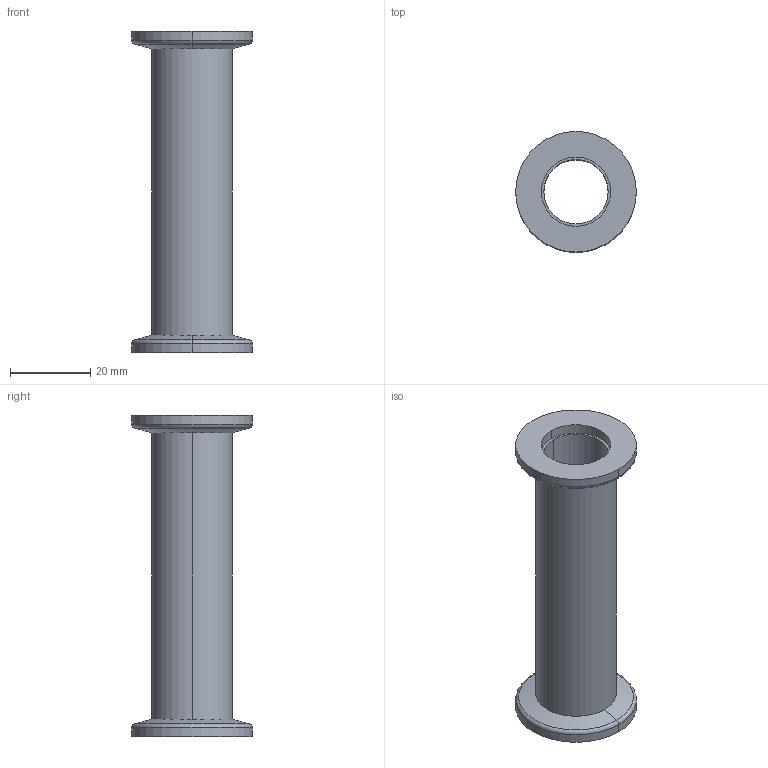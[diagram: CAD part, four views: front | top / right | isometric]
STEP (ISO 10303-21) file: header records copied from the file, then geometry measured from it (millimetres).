
FILE_DESCRIPTION (( 'STEP AP214' ), '1' );
FILE_NAME ('W3ZS16.STEP', '2019-11-29T07:15:57', ( '' ), ( '' ), 'SwSTEP 2.0', 'SolidWorks 2018', '' );
FILE_SCHEMA (( 'AUTOMOTIVE_DESIGN' ));
Length unit declared in the file: millimetre
Products named in the file (1): W3ZS16
Bounding box: 30 x 30 x 80 mm (x, y, z)
Volume: 11717.5 mm3; surface area: 10868.2 mm2
Topology: 1 solids, 1 shells, 24 faces, 52 edges, 32 vertices
Faces by surface type: cylinder 12, torus 4, cone 4, plane 4
Entity records: 706 total; most frequent: DIRECTION 138, CARTESIAN_POINT 109, ORIENTED_EDGE 104, AXIS2_PLACEMENT_3D 61, EDGE_CURVE 52, CIRCLE 36, VERTEX_POINT 32, EDGE_LOOP 28
